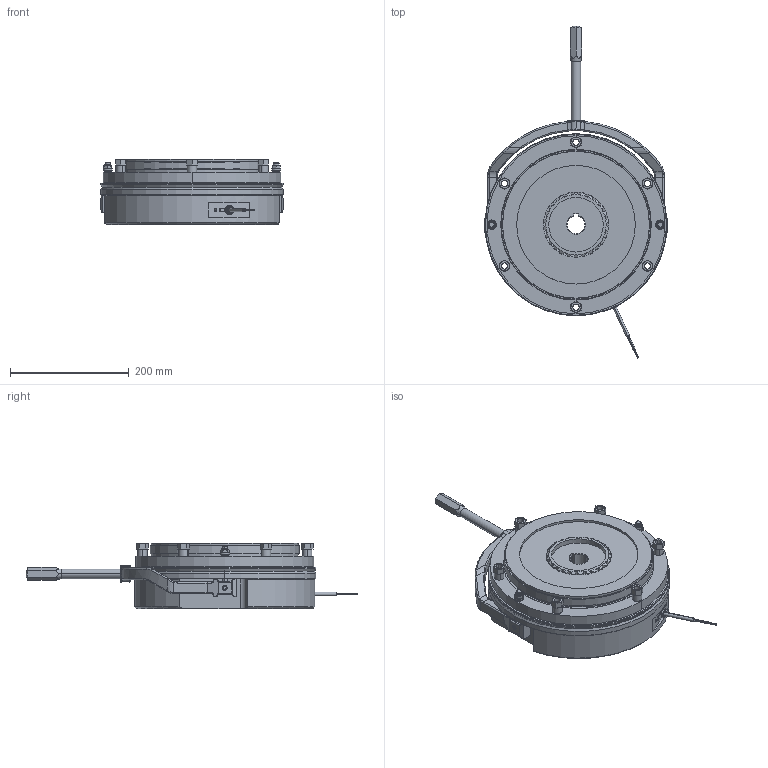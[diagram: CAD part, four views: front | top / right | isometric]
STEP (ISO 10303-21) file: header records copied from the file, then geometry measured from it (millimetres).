
FILE_DESCRIPTION (( 'STEP AP214' ), '1' );
FILE_NAME ('1038 mit HL.STEP', '2025-03-26T14:02:39', ( '' ), ( '' ), 'SwSTEP 2.0', 'SolidWorks 2022', '' );
FILE_SCHEMA (( 'AUTOMOTIVE_DESIGN' ));
Length unit declared in the file: millimetre
Products named in the file (7): 10068515_000; 10068514_000; 1038 mit HL; 10068506_000; 10068507_000; 10068505_000; 10068513_000
Assembly tree (11 placements, depth 2):
  1038 mit HL
    10068507_000
    10068513_000  x6
    10068514_000
    10068506_000
    10068515_000
    10068505_000
Bounding box: 307 x 559.51 x 110.8 mm (x, y, z)
Volume: 6476012 mm3; surface area: 785011.9 mm2
Topology: 43 solids, 44 shells, 1593 faces, 3829 edges, 2375 vertices
Faces by surface type: cylinder 594, plane 534, cone 282, bspline 130, torus 41, sphere 12
Entity records: 66366 total; most frequent: CARTESIAN_POINT 17728, ORIENTED_EDGE 7146, DIRECTION 7060, EDGE_CURVE 3573, AXIS2_PLACEMENT_3D 2756, VERTEX_POINT 2235, EDGE_LOOP 1638, VECTOR 1548
